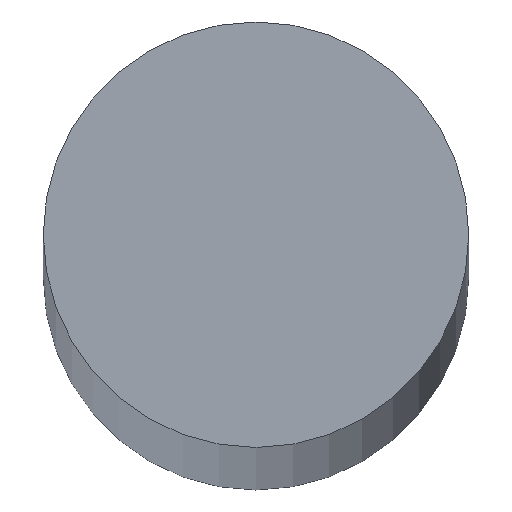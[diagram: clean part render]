
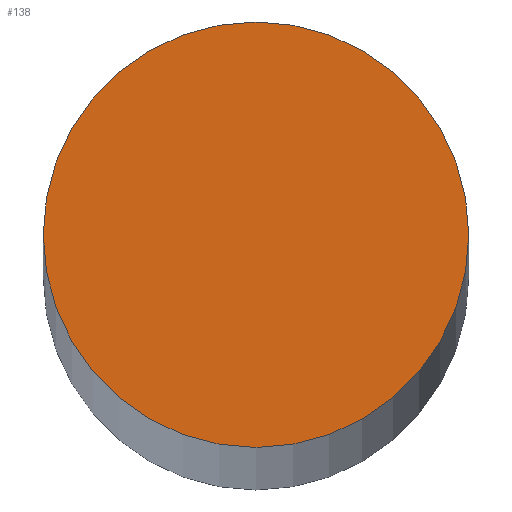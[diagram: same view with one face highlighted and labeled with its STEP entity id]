
A CAD part, top view. The second image highlights one B-rep face of the part: STEP entity #138.
In plain terms, the highlighted planar face has unit normal (0, 0, 1).
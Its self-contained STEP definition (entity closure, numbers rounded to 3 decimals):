
#8 = ORIENTED_EDGE ( 'NONE', *, *, #59, .T. ) ;
#9 = ORIENTED_EDGE ( 'NONE', *, *, #49, .T. ) ;
#21 = CIRCLE ( 'NONE', #67, 6. ) ;
#26 = CIRCLE ( 'NONE', #50, 6. ) ;
#30 = FACE_OUTER_BOUND ( 'NONE', #140, .T. ) ;
#49 = EDGE_CURVE ( 'NONE', #74, #75, #21, .T. ) ;
#50 = AXIS2_PLACEMENT_3D ( 'NONE', #91, #93, #94 ) ;
#59 = EDGE_CURVE ( 'NONE', #75, #74, #26, .T. ) ;
#67 = AXIS2_PLACEMENT_3D ( 'NONE', #83, #84, #85 ) ;
#69 = AXIS2_PLACEMENT_3D ( 'NONE', #110, #113, #114 ) ;
#74 = VERTEX_POINT ( 'NONE', #98 ) ;
#75 = VERTEX_POINT ( 'NONE', #101 ) ;
#83 = CARTESIAN_POINT ( 'NONE',  ( 0., 0., 343.5 ) ) ;
#84 = DIRECTION ( 'NONE',  ( 0., 0., 1. ) ) ;
#85 = DIRECTION ( 'NONE',  ( 1., 0., 0. ) ) ;
#91 = CARTESIAN_POINT ( 'NONE',  ( 0., 0., 343.5 ) ) ;
#93 = DIRECTION ( 'NONE',  ( 0., 0., 1. ) ) ;
#94 = DIRECTION ( 'NONE',  ( 1., 0., 0. ) ) ;
#98 = CARTESIAN_POINT ( 'NONE',  ( 6., 0., 343.5 ) ) ;
#101 = CARTESIAN_POINT ( 'NONE',  ( -6., 0., 343.5 ) ) ;
#110 = CARTESIAN_POINT ( 'NONE',  ( 0., 0., 343.5 ) ) ;
#111 = PLANE ( 'NONE',  #69 ) ;
#113 = DIRECTION ( 'NONE',  ( 0., 0., 1. ) ) ;
#114 = DIRECTION ( 'NONE',  ( 1., 0., 0. ) ) ;
#138 = ADVANCED_FACE ( 'NONE', ( #30 ), #111, .T. ) ;
#140 = EDGE_LOOP ( 'NONE', ( #8, #9 ) ) ;
